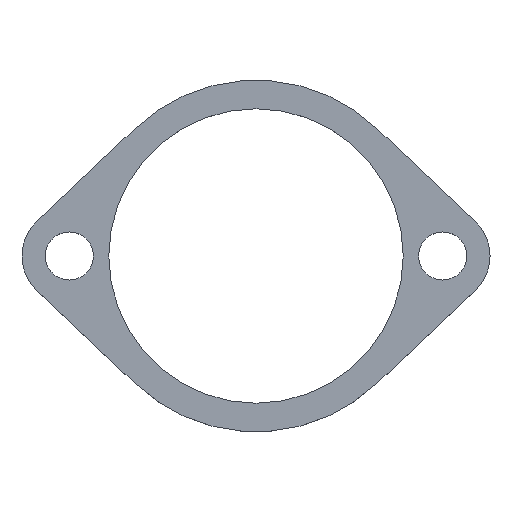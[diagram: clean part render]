
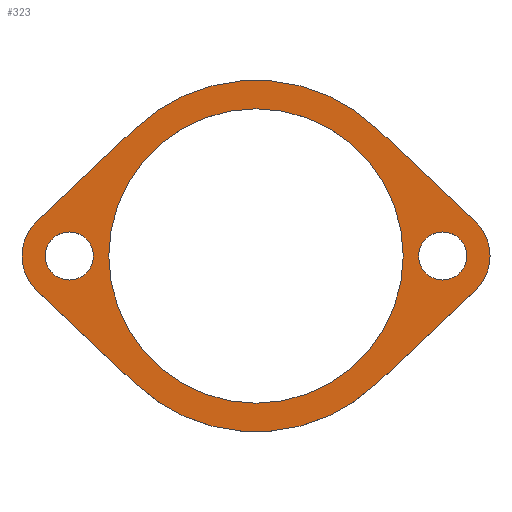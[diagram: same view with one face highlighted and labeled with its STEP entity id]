
A CAD part, top view. The second image highlights one B-rep face of the part: STEP entity #323.
In plain terms, the highlighted planar face has unit normal (0, 0, 1).
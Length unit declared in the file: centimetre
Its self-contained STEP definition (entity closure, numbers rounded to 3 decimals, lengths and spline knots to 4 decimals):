
#108=PLANE('',#350);
#112=VECTOR('',#367,1.);
#116=VECTOR('',#378,1.);
#120=VECTOR('',#389,1.);
#124=VECTOR('',#400,1.);
#128=LINE('',#431,#112);
#132=LINE('',#443,#116);
#136=LINE('',#455,#120);
#140=LINE('',#467,#124);
#142=VERTEX_POINT('',#418);
#144=VERTEX_POINT('',#423);
#145=VERTEX_POINT('',#424);
#148=VERTEX_POINT('',#432);
#150=VERTEX_POINT('',#438);
#152=VERTEX_POINT('',#444);
#154=VERTEX_POINT('',#450);
#156=VERTEX_POINT('',#456);
#158=VERTEX_POINT('',#462);
#160=VERTEX_POINT('',#471);
#162=VERTEX_POINT('',#476);
#164=CIRCLE('',#326,1.7018);
#166=CIRCLE('',#329,2.032);
#168=CIRCLE('',#333,0.5461);
#170=CIRCLE('',#337,2.032);
#172=CIRCLE('',#341,0.5461);
#174=CIRCLE('',#345,0.2781);
#176=CIRCLE('',#348,0.2781);
#178=EDGE_CURVE('',#142,#142,#164,.T.);
#180=EDGE_CURVE('',#144,#145,#166,.T.);
#184=EDGE_CURVE('',#145,#148,#128,.T.);
#187=EDGE_CURVE('',#148,#150,#168,.T.);
#190=EDGE_CURVE('',#150,#152,#132,.T.);
#193=EDGE_CURVE('',#152,#154,#170,.T.);
#196=EDGE_CURVE('',#154,#156,#136,.T.);
#199=EDGE_CURVE('',#156,#158,#172,.T.);
#202=EDGE_CURVE('',#158,#144,#140,.T.);
#204=EDGE_CURVE('',#160,#160,#174,.T.);
#206=EDGE_CURVE('',#162,#162,#176,.T.);
#246=ORIENTED_EDGE('',*,*,#178,.T.);
#247=ORIENTED_EDGE('',*,*,#206,.F.);
#248=ORIENTED_EDGE('',*,*,#204,.F.);
#249=ORIENTED_EDGE('',*,*,#180,.F.);
#250=ORIENTED_EDGE('',*,*,#202,.F.);
#251=ORIENTED_EDGE('',*,*,#199,.F.);
#252=ORIENTED_EDGE('',*,*,#196,.F.);
#253=ORIENTED_EDGE('',*,*,#193,.F.);
#254=ORIENTED_EDGE('',*,*,#190,.F.);
#255=ORIENTED_EDGE('',*,*,#187,.F.);
#256=ORIENTED_EDGE('',*,*,#184,.F.);
#282=EDGE_LOOP('',(#246));
#283=EDGE_LOOP('',(#247));
#284=EDGE_LOOP('',(#248));
#285=EDGE_LOOP('',(#249,#250,#251,#252,#253,#254,#255,#256));
#304=FACE_BOUND('',#282,.T.);
#305=FACE_BOUND('',#283,.T.);
#306=FACE_BOUND('',#284,.T.);
#307=FACE_BOUND('',#285,.T.);
#323=ADVANCED_FACE('',(#304,#305,#306,#307),#108,.T.);
#326=AXIS2_PLACEMENT_3D('',#417,#354,#355);
#329=AXIS2_PLACEMENT_3D('',#422,#360,#361);
#333=AXIS2_PLACEMENT_3D('',#437,#372,#373);
#337=AXIS2_PLACEMENT_3D('',#449,#383,#384);
#341=AXIS2_PLACEMENT_3D('',#461,#394,#395);
#345=AXIS2_PLACEMENT_3D('',#470,#404,#405);
#348=AXIS2_PLACEMENT_3D('',#475,#410,#411);
#350=AXIS2_PLACEMENT_3D('',#479,#414,$);
#354=DIRECTION('',(0.,0.,-1.));
#355=DIRECTION('',(1.702,0.,0.));
#360=DIRECTION('',(0.,0.,-1.));
#361=DIRECTION('',(2.032,0.,0.));
#367=DIRECTION('',(-0.725,0.688,0.));
#372=DIRECTION('',(0.,0.,-1.));
#373=DIRECTION('',(0.546,0.,0.));
#378=DIRECTION('',(0.725,0.688,0.));
#383=DIRECTION('',(0.,0.,-1.));
#384=DIRECTION('',(2.032,0.,0.));
#389=DIRECTION('',(0.725,-0.688,0.));
#394=DIRECTION('',(0.,0.,-1.));
#395=DIRECTION('',(0.546,0.,0.));
#400=DIRECTION('',(-0.725,-0.688,0.));
#404=DIRECTION('',(0.,0.,1.));
#405=DIRECTION('',(0.278,0.,0.));
#410=DIRECTION('',(0.,0.,1.));
#411=DIRECTION('',(0.278,0.,0.));
#414=DIRECTION('',(0.,0.,1.));
#417=CARTESIAN_POINT('',(0.,0.,0.3175));
#418=CARTESIAN_POINT('',(1.7018,0.,0.3175));
#422=CARTESIAN_POINT('',(0.,0.,0.3175));
#423=CARTESIAN_POINT('',(1.3985,-1.4742,0.3175));
#424=CARTESIAN_POINT('',(-1.3985,-1.4742,0.3175));
#431=CARTESIAN_POINT('',(-2.5348,-0.3962,0.3175));
#432=CARTESIAN_POINT('',(-2.5348,-0.3962,0.3175));
#437=CARTESIAN_POINT('',(-2.159,0.,0.3175));
#438=CARTESIAN_POINT('',(-2.5348,0.3962,0.3175));
#443=CARTESIAN_POINT('',(-1.3985,1.4742,0.3175));
#444=CARTESIAN_POINT('',(-1.3985,1.4742,0.3175));
#449=CARTESIAN_POINT('',(0.,0.,0.3175));
#450=CARTESIAN_POINT('',(1.3985,1.4742,0.3175));
#455=CARTESIAN_POINT('',(2.5348,0.3962,0.3175));
#456=CARTESIAN_POINT('',(2.5348,0.3962,0.3175));
#461=CARTESIAN_POINT('',(2.159,0.,0.3175));
#462=CARTESIAN_POINT('',(2.5348,-0.3962,0.3175));
#467=CARTESIAN_POINT('',(1.3985,-1.4742,0.3175));
#470=CARTESIAN_POINT('',(-2.159,0.,0.3175));
#471=CARTESIAN_POINT('',(-1.8809,0.,0.3175));
#475=CARTESIAN_POINT('',(2.159,0.,0.3175));
#476=CARTESIAN_POINT('',(2.4371,0.,0.3175));
#479=CARTESIAN_POINT('',(0.,0.,0.3175));
